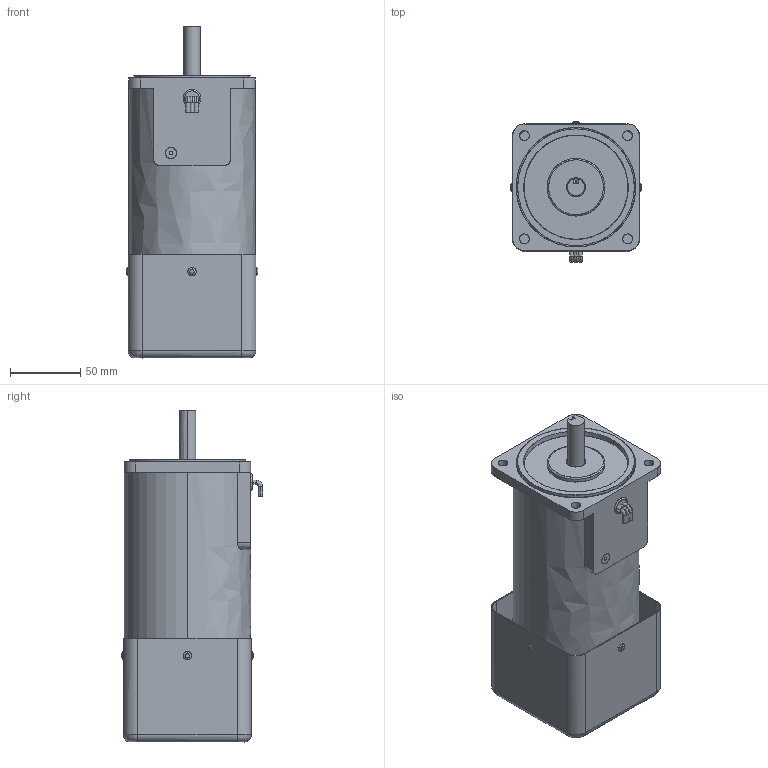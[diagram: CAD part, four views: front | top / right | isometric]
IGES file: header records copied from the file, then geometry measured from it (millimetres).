
Start section: SolidWorks IGES file using analytic representation for surfaces
Global section: file name: \\楷备家烹钦辑滚\data (D)\档搁 枚\权其捞瘤 档搁\7. SPEED INDUCTION\90\180W\(7-121) 9SDK∴-180F2WH.IGS; native system: SolidWorks 2007; preprocessor: SolidWorks 2007; author: user; date: 150709.100425; units: millimetre
Bounding box: 94 x 100.5 x 236.5 mm (x, y, z)
Surface area: 188838.1 mm2 (no closed solid volume)
Topology: 0 solids, 0 shells, 366 faces, 6626 edges, 6626 vertices
Faces by surface type: revolution 232, bspline 134
